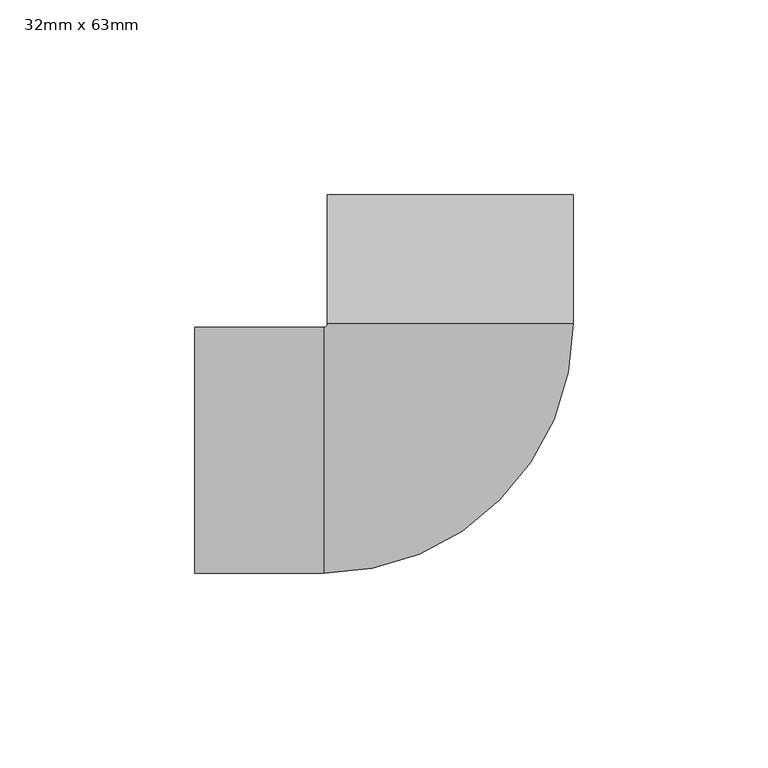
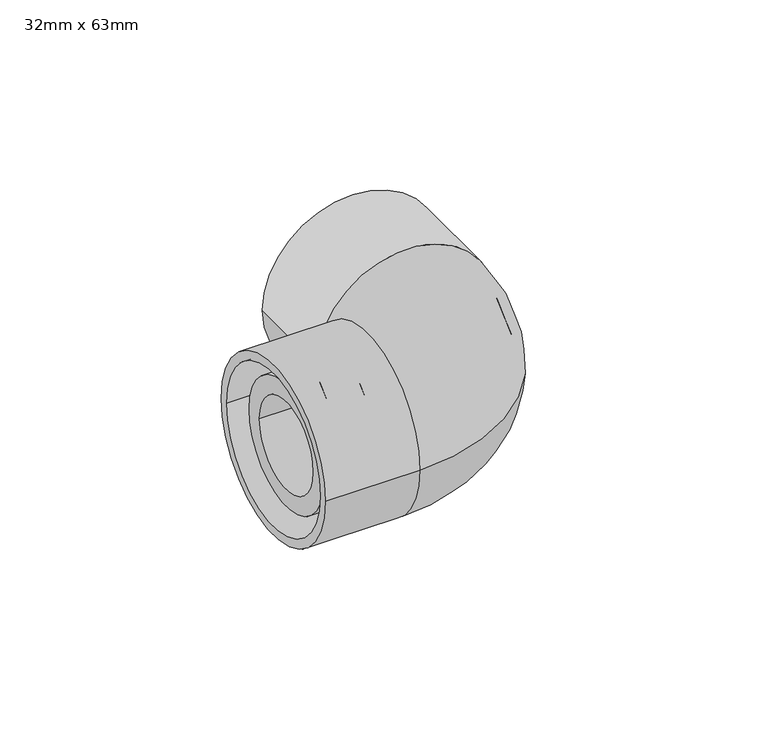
"""IFC4 building model written with IfcOpenShell, lengths in millimetres: pipe fitting geometry, Durapipe_PipeFittings_PLX_CloseFit_90Elbow : 32mm x 63mm."""

from ifc_helpers import new_model, si_unit, point, frame, origin, place, context, project, spatial, polyline, circle_curve, ellipse_curve, trimmed, source, transform, mapped, element, save
from ifc_brep_helpers import plane_surface, cylinder_surface, revolved_surface, advanced_brep


def pipe_fitting_32mm_x_63mm_78bfc543(model_context):
    return source(origin(), model_context, "Body", "AdvancedBrep", [
        advanced_brep(
        [(-65.5, -31.5, 0.0), (-65.5, 31.5, 0.0), (-65.5, -28.3, 0.0), (-65.5, 28.3, 0.0), (-32.5, -31.5, 0.0), (-32.5, 31.5, 0.0), (-32.5, -28.3, 0.0), (-32.5, 28.3, 0.0), (-31.5, 32.5, 0.0), (31.5, 32.5, 0.0), (-28.3, 32.5, 0.0), (28.3, 32.5, 0.0), (31.5, 65.5, 0.0), (-31.5, 65.5, 0.0), (28.3, 65.5, 0.0), (-28.3, 65.5, 0.0)],
        [
            (0, 1, circle_curve(frame((-65.5, 0.0, 0.0), z_axis=(-1.0, 0.0, 0.0), x_axis=(0.0, 1.0, 0.0)), 31.5)),
            (1, 0, circle_curve(frame((-65.5, 0.0, 0.0), z_axis=(-1.0, 0.0, 0.0), x_axis=(0.0, 1.0, 0.0)), 31.5)),
            (2, 3, circle_curve(frame((-65.5, 0.0, 0.0), z_axis=(1.0, 0.0, 0.0), x_axis=(0.0, 1.0, 0.0)), 28.3)),
            (3, 2, circle_curve(frame((-65.5, 0.0, 0.0), z_axis=(1.0, 0.0, 0.0), x_axis=(0.0, 1.0, 0.0)), 28.3)),
            (0, 4),
            (4, 5, circle_curve(frame((-32.5, 0.0, 0.0), z_axis=(-1.0, 0.0, 0.0), x_axis=(0.0, 1.0, 0.0)), 31.5)),
            (5, 1),
            (5, 4, circle_curve(frame((-32.5, 0.0, 0.0), z_axis=(-1.0, 0.0, 0.0), x_axis=(0.0, 1.0, 0.0)), 31.5)),
            (2, 6),
            (6, 7, circle_curve(frame((-32.5, 0.0, 0.0), z_axis=(1.0, 0.0, 0.0), x_axis=(0.0, 1.0, 0.0)), 28.3)),
            (7, 3),
            (7, 6, circle_curve(frame((-32.5, 0.0, 0.0), z_axis=(1.0, 0.0, 0.0), x_axis=(0.0, 1.0, 0.0)), 28.3)),
            (8, 5, circle_curve(frame((-32.5, 32.5, 0.0), z_axis=(0.0, 0.0, -1.0), x_axis=(0.0, -1.0, 0.0)), 1.0)),
            (4, 9, circle_curve(frame((-32.5, 32.5, 0.0), z_axis=(0.0, 0.0, 1.0), x_axis=(0.0, -1.0, 0.0)), 64.0)),
            (9, 8, circle_curve(frame((0.0, 32.5, 0.0), z_axis=(0.0, -1.0, 0.0), x_axis=(-1.0, 0.0, 0.0)), 31.5)),
            (8, 9, circle_curve(frame((0.0, 32.5, 0.0), z_axis=(0.0, -1.0, 0.0), x_axis=(-1.0, 0.0, 0.0)), 31.5)),
            (10, 7, circle_curve(frame((-32.5, 32.5, 0.0), z_axis=(0.0, 0.0, -1.0), x_axis=(0.0, -1.0, 0.0)), 4.2)),
            (6, 11, circle_curve(frame((-32.5, 32.5, 0.0), z_axis=(0.0, 0.0, 1.0), x_axis=(0.0, -1.0, 0.0)), 60.8)),
            (11, 10, circle_curve(frame((0.0, 32.5, 0.0), z_axis=(0.0, 1.0, 0.0), x_axis=(-1.0, 0.0, 0.0)), 28.3)),
            (10, 11, circle_curve(frame((0.0, 32.5, 0.0), z_axis=(0.0, 1.0, 0.0), x_axis=(-1.0, 0.0, 0.0)), 28.3)),
            (12, 13, circle_curve(frame((0.0, 65.5, 0.0), z_axis=(0.0, 1.0, 0.0), x_axis=(-1.0, 0.0, 0.0)), 31.5)),
            (13, 12, circle_curve(frame((0.0, 65.5, 0.0), z_axis=(0.0, 1.0, 0.0), x_axis=(-1.0, 0.0, 0.0)), 31.5)),
            (14, 15, circle_curve(frame((0.0, 65.5, 0.0), z_axis=(0.0, -1.0, 0.0), x_axis=(-1.0, 0.0, 0.0)), 28.3)),
            (15, 14, circle_curve(frame((0.0, 65.5, 0.0), z_axis=(0.0, -1.0, 0.0), x_axis=(-1.0, 0.0, 0.0)), 28.3)),
            (9, 12),
            (13, 8),
            (11, 14),
            (15, 10),
        ],
        [
            plane_surface(frame((-65.5, 0.0, 0.0), z_axis=(-1.0, 0.0, 0.0), x_axis=(0.0, 0.0, 1.0))),
            cylinder_surface(frame((-65.5, 0.0, 0.0), z_axis=(-1.0, 0.0, 0.0), x_axis=(0.0, 1.0, 0.0)), 31.5),
            revolved_surface(polyline([(-32.5, 28.3, 0.0), (-65.5, 28.3, 0.0)]), (-65.5, 0.0, 0.0), (1.0, 0.0, 0.0)),
            revolved_surface(trimmed(ellipse_curve(frame((-32.5, 0.0, 0.0), z_axis=(-1.0, 0.0, 0.0), x_axis=(0.0, 1.0, 0.0)), 31.5, 31.5), [point((-32.5, -31.5, 0.0))], [point((-32.5, 31.5, 0.0))], True, "CARTESIAN"), (-32.5, 32.5, 0.0), (0.0, 0.0, 1.0)),
            revolved_surface(trimmed(ellipse_curve(frame((-32.5, 0.0, 0.0), z_axis=(-1.0, 0.0, 0.0), x_axis=(0.0, 1.0, 0.0)), 31.5, 31.5), [point((-32.5, 31.5, 0.0))], [point((-32.5, -31.5, 0.0))], True, "CARTESIAN"), (-32.5, 32.5, 0.0), (0.0, 0.0, 1.0)),
            revolved_surface(trimmed(ellipse_curve(frame((-32.5, 0.0, 0.0), z_axis=(1.0, 0.0, 0.0), x_axis=(0.0, 1.0, 0.0)), 28.3, 28.3), [point((-32.5, -28.3, 0.0))], [point((-32.5, 28.3, 0.0))], True, "CARTESIAN"), (-32.5, 32.5, 0.0), (0.0, 0.0, 1.0)),
            revolved_surface(trimmed(ellipse_curve(frame((-32.5, 0.0, 0.0), z_axis=(1.0, 0.0, 0.0), x_axis=(0.0, 1.0, 0.0)), 28.3, 28.3), [point((-32.5, 28.3, 0.0))], [point((-32.5, -28.3, 0.0))], True, "CARTESIAN"), (-32.5, 32.5, 0.0), (0.0, 0.0, 1.0)),
            plane_surface(frame((0.0, 65.5, 0.0), z_axis=(0.0, 1.0, 0.0), x_axis=(0.0, 0.0, 1.0))),
            cylinder_surface(frame((0.0, 32.5, 0.0), z_axis=(0.0, -1.0, 0.0), x_axis=(-1.0, 0.0, 0.0)), 31.5),
            revolved_surface(polyline([(-28.3, 65.5, 0.0), (-28.3, 32.5, 0.0)]), (0.0, 32.5, 0.0), (0.0, 1.0, 0.0)),
        ],
        [
            (0, [[1, 2], [3, 4]]),
            (1, [[-1, 5, 6, 7]]),
            (1, [[-2, -7, 8, -5]]),
            (2, [[-3, 9, 10, 11]]),
            (2, [[-4, -11, 12, -9]]),
            (3, [[13, -6, 14, 15]]),
            (4, [[-14, -8, -13, 16]]),
            (5, [[17, -10, 18, 19]]),
            (6, [[-18, -12, -17, 20]]),
            (7, [[21, 22], [23, 24]]),
            (8, [[-15, 25, -22, 26]]),
            (8, [[-16, -26, -21, -25]]),
            (9, [[-19, 27, -24, 28]]),
            (9, [[-20, -28, -23, -27]]),
        ],
    ),
        advanced_brep(
        [(-23.5, 22.5, 0.0), (-23.5, -22.5, 0.0), (22.5, 23.5, 0.0), (-22.5, 23.5, 0.0), (-61.0, -22.5, 0.0), (-61.0, 22.5, 0.0), (-61.0, -16.2, 0.0), (-61.0, 16.2, 0.0), (-22.5, 61.0, 0.0), (22.5, 61.0, 0.0), (0.0, 61.0, 16.2), (0.0, 61.0, -16.2), (-21.0, 16.2, 0.0), (-21.0, -16.2, 0.0), (0.0, 21.0, -16.2), (0.0, 21.0, 16.2)],
        [
            (0, 1, circle_curve(frame((-23.5, 0.0, 0.0), z_axis=(1.0, 0.0, 0.0), x_axis=(0.0, 1.0, 0.0)), 22.5)),
            (1, 2, circle_curve(frame((-23.5, 23.5, 0.0), z_axis=(0.0, 0.0, 1.0), x_axis=(0.0, -1.0, 0.0)), 46.0)),
            (2, 3, circle_curve(frame((0.0, 23.5, 0.0), z_axis=(0.0, -1.0, 0.0), x_axis=(-1.0, 0.0, 0.0)), 22.5)),
            (3, 0, circle_curve(frame((-23.5, 23.5, 0.0), z_axis=(0.0, 0.0, -1.0), x_axis=(0.0, -1.0, 0.0)), 1.0)),
            (1, 0, circle_curve(frame((-23.5, 0.0, 0.0), z_axis=(1.0, 0.0, 0.0), x_axis=(0.0, 1.0, 0.0)), 22.5)),
            (3, 2, circle_curve(frame((0.0, 23.5, 0.0), z_axis=(0.0, -1.0, 0.0), x_axis=(-1.0, 0.0, 0.0)), 22.5)),
            (4, 5, circle_curve(frame((-61.0, 0.0, 0.0), z_axis=(-1.0, 0.0, 0.0), x_axis=(0.0, 1.0, 0.0)), 22.5)),
            (5, 4, circle_curve(frame((-61.0, 0.0, 0.0), z_axis=(-1.0, 0.0, 0.0), x_axis=(0.0, 1.0, 0.0)), 22.5)),
            (6, 7, circle_curve(frame((-61.0, 0.0, 0.0), z_axis=(1.0, 0.0, 0.0), x_axis=(0.0, -1.0, 0.0)), 16.2)),
            (7, 6, circle_curve(frame((-61.0, 0.0, 0.0), z_axis=(1.0, 0.0, 0.0), x_axis=(0.0, -1.0, 0.0)), 16.2)),
            (8, 9, circle_curve(frame((0.0, 61.0, 0.0), z_axis=(0.0, 1.0, 0.0), x_axis=(-1.0, 0.0, 0.0)), 22.5)),
            (9, 8, circle_curve(frame((0.0, 61.0, 0.0), z_axis=(0.0, 1.0, 0.0), x_axis=(-1.0, 0.0, 0.0)), 22.5)),
            (10, 11, circle_curve(frame((0.0, 61.0, 0.0), z_axis=(0.0, -1.0, 0.0), x_axis=(0.0, 0.0, 1.0)), 16.2)),
            (11, 10, circle_curve(frame((0.0, 61.0, 0.0), z_axis=(0.0, -1.0, 0.0), x_axis=(0.0, 0.0, 1.0)), 16.2)),
            (0, 5),
            (4, 1),
            (2, 9),
            (8, 3),
            (12, 13, circle_curve(frame((-21.0, 0.0, 0.0), z_axis=(-1.0, 0.0, 0.0), x_axis=(0.0, -1.0, 0.0)), 16.2)),
            (13, 12, circle_curve(frame((-21.0, 0.0, 0.0), z_axis=(-1.0, 0.0, 0.0), x_axis=(0.0, -1.0, 0.0)), 16.2)),
            (12, 7),
            (6, 13),
            (14, 15, circle_curve(frame((0.0, 21.0, 0.0), z_axis=(0.0, 1.0, 0.0), x_axis=(0.0, 0.0, 1.0)), 16.2)),
            (15, 14, circle_curve(frame((0.0, 21.0, 0.0), z_axis=(0.0, 1.0, 0.0), x_axis=(0.0, 0.0, 1.0)), 16.2)),
            (14, 11),
            (10, 15),
        ],
        [
            revolved_surface(trimmed(ellipse_curve(frame((-23.5, 0.0, 0.0), z_axis=(-1.0, 0.0, 0.0), x_axis=(0.0, 1.0, 0.0)), 22.5, 22.5), [point((-23.5, -22.5, 0.0))], [point((-23.5, 22.5, 0.0))], True, "CARTESIAN"), (-23.5, 23.5, 0.0), (0.0, 0.0, 1.0)),
            revolved_surface(trimmed(ellipse_curve(frame((-23.5, 0.0, 0.0), z_axis=(-1.0, 0.0, 0.0), x_axis=(0.0, 1.0, 0.0)), 22.5, 22.5), [point((-23.5, 22.5, 0.0))], [point((-23.5, -22.5, 0.0))], True, "CARTESIAN"), (-23.5, 23.5, 0.0), (0.0, 0.0, 1.0)),
            plane_surface(frame((-61.0, 0.0, 0.0), z_axis=(-1.0, 0.0, 0.0), x_axis=(0.0, 0.0, 1.0))),
            plane_surface(frame((0.0, 61.0, 0.0), z_axis=(0.0, 1.0, 0.0), x_axis=(0.0, 0.0, 1.0))),
            cylinder_surface(frame((-61.0, 0.0, 0.0), z_axis=(-1.0, 0.0, 0.0), x_axis=(0.0, 1.0, 0.0)), 22.5),
            cylinder_surface(frame((0.0, 23.5, 0.0), z_axis=(0.0, -1.0, 0.0), x_axis=(-1.0, 0.0, 0.0)), 22.5),
            plane_surface(frame((-21.0, -16.2, 0.0), z_axis=(-1.0, 0.0, 0.0), x_axis=(0.0, 0.0, -1.0))),
            revolved_surface(polyline([(-61.0, -16.2, 0.0), (-21.0, -16.2, 0.0)]), (-21.0, 0.0, 0.0), (-1.0, 0.0, 0.0)),
            plane_surface(frame((0.0, 21.0, 16.2), z_axis=(0.0, 1.0, 0.0), x_axis=(-1.0, 0.0, 0.0))),
            revolved_surface(polyline([(0.0, 61.0, 16.2), (0.0, 21.0, 16.2)]), (0.0, 21.0, 0.0), (0.0, 1.0, 0.0)),
        ],
        [
            (0, [[1, 2, 3, 4]]),
            (1, [[5, -4, 6, -2]]),
            (2, [[7, 8], [9, 10]]),
            (3, [[11, 12], [13, 14]]),
            (4, [[-1, 15, -7, 16]]),
            (4, [[-5, -16, -8, -15]]),
            (5, [[-3, 17, -11, 18]]),
            (5, [[-6, -18, -12, -17]]),
            (6, [[19, 20]]),
            (7, [[-19, 21, -9, 22]]),
            (7, [[-20, -22, -10, -21]]),
            (8, [[23, 24]]),
            (9, [[-23, 25, -13, 26]]),
            (9, [[-24, -26, -14, -25]]),
        ],
    ),
    ])


if __name__ == "__main__":
    model = new_model("IFC4")
    model_context = context("Model", 3, world=origin())
    ifc_project = project(units=[si_unit("LENGTHUNIT", "METRE", prefix="MILLI")], contexts=[model_context])
    site = spatial("IfcSite", under=ifc_project)
    building = spatial("IfcBuilding", under=site)
    placement = place(None, origin())
    pipe_fitting_32mm_x_63mm_shape = pipe_fitting_32mm_x_63mm_78bfc543(model_context)
    element("IfcPipeFitting", 1, ObjectType="Durapipe_PipeFittings_PLX_CloseFit_90Elbow : 32mm x 63mm", at=placement, inside=building, context=model_context, shape_type="MappedRepresentation", body=[
        mapped(pipe_fitting_32mm_x_63mm_shape, transform((0.0, 0.0, 0.0), x_axis=(1.0, 0.0, 0.0), y_axis=(0.0, 1.0, 0.0), z_axis=(0.0, 0.0, 1.0))),
    ])
    save(model, "model.ifc")
